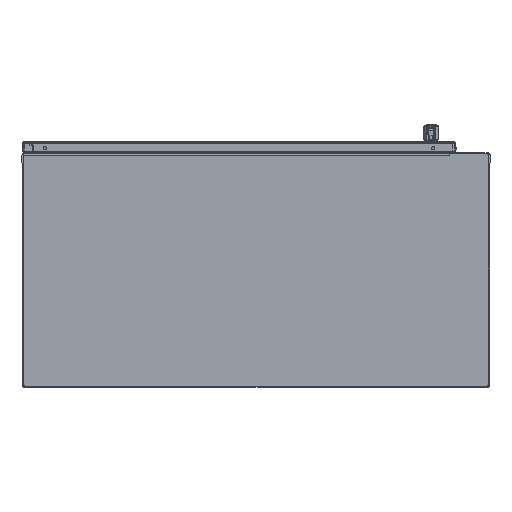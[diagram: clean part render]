
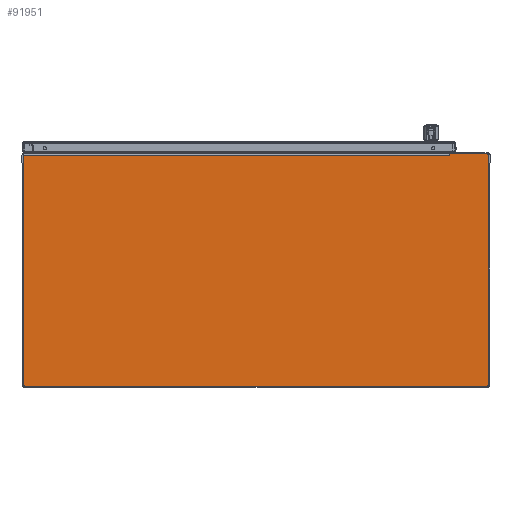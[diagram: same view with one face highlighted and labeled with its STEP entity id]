
A CAD part, front view. The second image highlights one B-rep face of the part: STEP entity #91951.
In plain terms, the highlighted planar face has unit normal (0, -1, 0) as drawn and (0, 0, 1) by its records, which use the part's own axes.
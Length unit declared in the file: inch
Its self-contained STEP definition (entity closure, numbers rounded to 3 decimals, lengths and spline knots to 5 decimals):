
#222 = ORIENTED_EDGE ( 'NONE', *, *, #36599, .T. ) ;
#322 = DIRECTION ( 'NONE',  ( 0., -1., 0. ) ) ;
#370 = VECTOR ( 'NONE', #17464, 39.37008 ) ;
#2269 = ORIENTED_EDGE ( 'NONE', *, *, #34420, .T. ) ;
#2425 = VERTEX_POINT ( 'NONE', #56890 ) ;
#2463 = LINE ( 'NONE', #44505, #80593 ) ;
#2568 = EDGE_LOOP ( 'NONE', ( #2269, #18661, #61614, #4305, #222, #86407, #59484, #30673, #26293 ) ) ;
#4305 = ORIENTED_EDGE ( 'NONE', *, *, #82927, .T. ) ;
#5702 = CARTESIAN_POINT ( 'NONE',  ( -15.031, 0.1, 0.072 ) ) ;
#6819 = CARTESIAN_POINT ( 'NONE',  ( 16.669, 0.1, 0.072 ) ) ;
#7732 = CARTESIAN_POINT ( 'NONE',  ( -15.131, 0., 0.072 ) ) ;
#8446 = VECTOR ( 'NONE', #322, 39.37008 ) ;
#13477 = AXIS2_PLACEMENT_3D ( 'NONE', #43766, #57871, #36323 ) ;
#17464 = DIRECTION ( 'NONE',  ( 0., -1., 0. ) ) ;
#18584 = VERTEX_POINT ( 'NONE', #6819 ) ;
#18661 = ORIENTED_EDGE ( 'NONE', *, *, #32977, .T. ) ;
#18675 = VECTOR ( 'NONE', #79380, 39.37008 ) ;
#20671 = VERTEX_POINT ( 'NONE', #26577 ) ;
#23911 = DIRECTION ( 'NONE',  ( 1., 0., 0. ) ) ;
#24555 = CARTESIAN_POINT ( 'NONE',  ( -15.031, 0., 0.072 ) ) ;
#25759 = CIRCLE ( 'NONE', #33900, 0.1 ) ;
#26293 = ORIENTED_EDGE ( 'NONE', *, *, #61933, .T. ) ;
#26577 = CARTESIAN_POINT ( 'NONE',  ( 16.569, 0., 0.072 ) ) ;
#26734 = LINE ( 'NONE', #87997, #8446 ) ;
#27659 = EDGE_CURVE ( 'NONE', #51395, #20671, #84172, .T. ) ;
#28259 = CARTESIAN_POINT ( 'NONE',  ( -15.131, 0., 0.072 ) ) ;
#30673 = ORIENTED_EDGE ( 'NONE', *, *, #55047, .T. ) ;
#31701 = VERTEX_POINT ( 'NONE', #46319 ) ;
#32977 = EDGE_CURVE ( 'NONE', #31701, #51395, #25759, .T. ) ;
#33146 = VECTOR ( 'NONE', #81622, 39.37008 ) ;
#33900 = AXIS2_PLACEMENT_3D ( 'NONE', #5702, #64115, #86613 ) ;
#34420 = EDGE_CURVE ( 'NONE', #34949, #31701, #52130, .T. ) ;
#34949 = VERTEX_POINT ( 'NONE', #55259 ) ;
#35392 = AXIS2_PLACEMENT_3D ( 'NONE', #52482, #74275, #23911 ) ;
#36323 = DIRECTION ( 'NONE',  ( 1., 0., 0. ) ) ;
#36579 = DIRECTION ( 'NONE',  ( 0., 0., 1. ) ) ;
#36599 = EDGE_CURVE ( 'NONE', #18584, #43918, #2463, .T. ) ;
#37436 = CARTESIAN_POINT ( 'NONE',  ( 13.991, 15.85, 0.072 ) ) ;
#38626 = VERTEX_POINT ( 'NONE', #58786 ) ;
#39939 = CARTESIAN_POINT ( 'NONE',  ( -15.131, 15.925, 0.072 ) ) ;
#40178 = EDGE_CURVE ( 'NONE', #38626, #2425, #93060, .T. ) ;
#43766 = CARTESIAN_POINT ( 'NONE',  ( 16.569, 15.75, 0.072 ) ) ;
#43918 = VERTEX_POINT ( 'NONE', #61292 ) ;
#44505 = CARTESIAN_POINT ( 'NONE',  ( 16.669, 15.925, 0.072 ) ) ;
#46319 = CARTESIAN_POINT ( 'NONE',  ( -15.131, 0.1, 0.072 ) ) ;
#50314 = CIRCLE ( 'NONE', #13477, 0.1 ) ;
#51395 = VERTEX_POINT ( 'NONE', #24555 ) ;
#52130 = LINE ( 'NONE', #39939, #370 ) ;
#52482 = CARTESIAN_POINT ( 'NONE',  ( 16.569, 0.1, 0.072 ) ) ;
#52605 = DIRECTION ( 'NONE',  ( 1., 0., 0. ) ) ;
#54928 = AXIS2_PLACEMENT_3D ( 'NONE', #7732, #36579, #52605 ) ;
#55047 = EDGE_CURVE ( 'NONE', #38626, #65171, #26734, .T. ) ;
#55259 = CARTESIAN_POINT ( 'NONE',  ( -15.131, 15.763, 0.072 ) ) ;
#56890 = CARTESIAN_POINT ( 'NONE',  ( 16.569, 15.85, 0.072 ) ) ;
#57871 = DIRECTION ( 'NONE',  ( 0., 0., 1. ) ) ;
#58786 = CARTESIAN_POINT ( 'NONE',  ( 13.991, 15.85, 0.072 ) ) ;
#59484 = ORIENTED_EDGE ( 'NONE', *, *, #40178, .F. ) ;
#59781 = CARTESIAN_POINT ( 'NONE',  ( 16.669, 15.763, 0.072 ) ) ;
#61292 = CARTESIAN_POINT ( 'NONE',  ( 16.669, 15.75, 0.072 ) ) ;
#61614 = ORIENTED_EDGE ( 'NONE', *, *, #27659, .T. ) ;
#61933 = EDGE_CURVE ( 'NONE', #65171, #34949, #89517, .T. ) ;
#62969 = FACE_OUTER_BOUND ( 'NONE', #2568, .T. ) ;
#63000 = CIRCLE ( 'NONE', #35392, 0.1 ) ;
#64115 = DIRECTION ( 'NONE',  ( 0., 0., 1. ) ) ;
#65171 = VERTEX_POINT ( 'NONE', #70962 ) ;
#66514 = VECTOR ( 'NONE', #66666, 39.37008 ) ;
#66666 = DIRECTION ( 'NONE',  ( 1., 0., 0. ) ) ;
#70962 = CARTESIAN_POINT ( 'NONE',  ( 13.991, 15.763, 0.072 ) ) ;
#73784 = PLANE ( 'NONE',  #54928 ) ;
#74275 = DIRECTION ( 'NONE',  ( 0., 0., 1. ) ) ;
#74501 = EDGE_CURVE ( 'NONE', #43918, #2425, #50314, .T. ) ;
#79380 = DIRECTION ( 'NONE',  ( 1., 0., 0. ) ) ;
#80487 = DIRECTION ( 'NONE',  ( 0., 1., 0. ) ) ;
#80593 = VECTOR ( 'NONE', #80487, 39.37008 ) ;
#81622 = DIRECTION ( 'NONE',  ( -1., 0., 0. ) ) ;
#82927 = EDGE_CURVE ( 'NONE', #20671, #18584, #63000, .T. ) ;
#84172 = LINE ( 'NONE', #28259, #18675 ) ;
#86407 = ORIENTED_EDGE ( 'NONE', *, *, #74501, .T. ) ;
#86613 = DIRECTION ( 'NONE',  ( 1., 0., 0. ) ) ;
#87997 = CARTESIAN_POINT ( 'NONE',  ( 13.991, 15.85, 0.072 ) ) ;
#89517 = LINE ( 'NONE', #59781, #33146 ) ;
#91951 = ADVANCED_FACE ( 'NONE', ( #62969 ), #73784, .T. ) ;
#93060 = LINE ( 'NONE', #37436, #66514 ) ;
